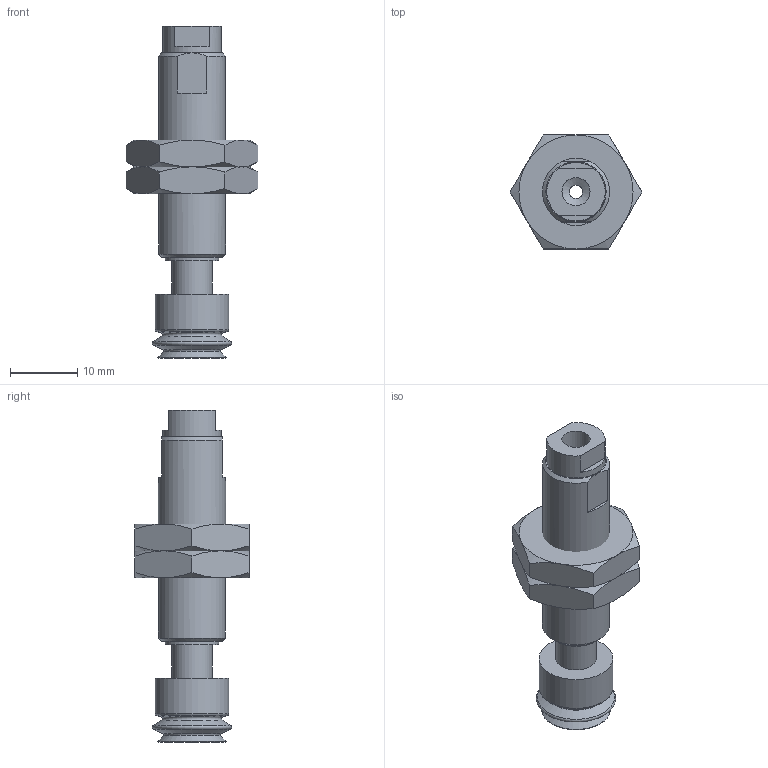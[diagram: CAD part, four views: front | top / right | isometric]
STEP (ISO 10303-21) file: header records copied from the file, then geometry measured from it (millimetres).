
FILE_DESCRIPTION(('STEP AP203'),'1');
FILE_NAME('-LB.stp','2025-04-25T02:03:31',(' '),(' '),'Spatial InterOp 3D',' ',' ');
FILE_SCHEMA(('CONFIG_CONTROL_DESIGN'));
Length unit declared in the file: millimetre
Products named in the file (7): BNABPJTH-10-5-※-LB; __; BODY; NUT; BPJG-10-_; TN-PF-15-M5
Assembly tree (6 placements, depth 2):
  BNABPJTH-10-5-※-LB
    __
    BODY
    NUT
    NUT
    BPJG-10-_
    TN-PF-15-M5
Bounding box: 19.63 x 17 x 49.5 mm (x, y, z)
Volume: 4667.5 mm3; surface area: 4153.9 mm2
Topology: 6 solids, 6 shells, 103 faces, 221 edges, 135 vertices
Faces by surface type: plane 43, cone 37, cylinder 16, torus 7
Full cylindrical faces by diameter (mm): 2 x1, 2.5 x1, 4.2 x2, 4.6 x1, 5 x1, 6 x1, 6.266 x1, 7.8 x1, 8 x2, 8.7 x1, 9 x2, 10 x1, 11 x1
Entity records: 2968 total; most frequent: CARTESIAN_POINT 618, DIRECTION 424, ORIENTED_EDGE 352, AXIS2_PLACEMENT_3D 190, EDGE_CURVE 176, EDGE_LOOP 154, FACE_OUTER_BOUND 126, VERTEX_POINT 124
